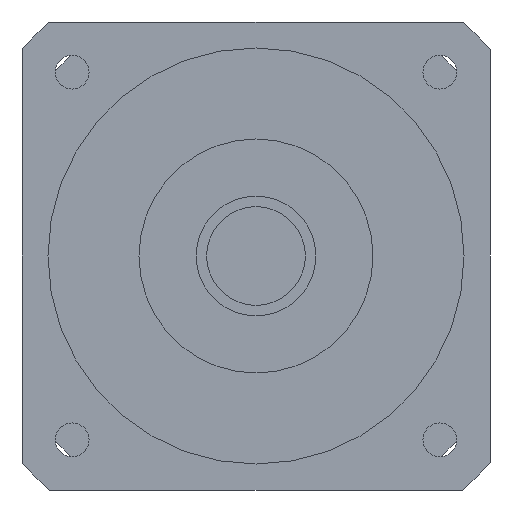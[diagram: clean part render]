
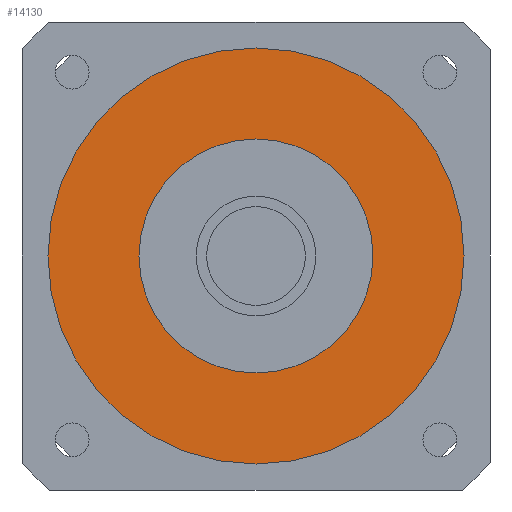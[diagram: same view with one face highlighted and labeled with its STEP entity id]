
A CAD part, left-side view. The second image highlights one B-rep face of the part: STEP entity #14130.
In plain terms, the highlighted planar face has unit normal (-1, 0, 0) as drawn and (0, 0, -1) by its records, which use the part's own axes.
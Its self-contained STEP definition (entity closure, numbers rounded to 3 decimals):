
#13740=CARTESIAN_POINT('',(0.,0.,
-54.));
#13750=DIRECTION('',(0.,0.,1.));
#13760=DIRECTION('',(0.,1.,0.));
#13770=AXIS2_PLACEMENT_3D('',#13740,#13750,#13760);
#13780=PLANE('',#13770);
#13790=CARTESIAN_POINT('',(0.,0.,-54.));
#13800=DIRECTION('',(0.,0.,1.));
#13810=DIRECTION('',(0.,1.,0.));
#13820=AXIS2_PLACEMENT_3D('',#13790,#13800,#13810);
#13830=CIRCLE('',#13820,22.5);
#13840=CARTESIAN_POINT('',(0.,22.5,-54.));
#13850=VERTEX_POINT('',#13840);
#13860=CARTESIAN_POINT('',(0.,-22.5,-54.));
#13870=VERTEX_POINT('',#13860);
#13880=EDGE_CURVE('',#13850,#13870,#13830,.T.);
#13890=ORIENTED_EDGE('',*,*,#13880,.T.);
#13900=EDGE_CURVE('',#13870,#13850,#13830,.T.);
#13910=ORIENTED_EDGE('',*,*,#13900,.T.);
#13920=EDGE_LOOP('',(#13910,#13890));
#13930=FACE_BOUND('',#13920,.T.);
#13940=CARTESIAN_POINT('',(0.,0.,
-54.));
#13950=DIRECTION('',(0.,0.,1.));
#13960=DIRECTION('',(1.,0.,0.));
#13970=AXIS2_PLACEMENT_3D('',#13940,#13950,#13960);
#13980=CIRCLE('',#13970,40.);
#13990=CARTESIAN_POINT('',(40.,0.,-54.));
#14000=VERTEX_POINT('',#13990);
#14010=CARTESIAN_POINT('',(0.,40.,-54.));
#14020=VERTEX_POINT('',#14010);
#14030=EDGE_CURVE('',#14000,#14020,#13980,.T.);
#14040=ORIENTED_EDGE('',*,*,#14030,.F.);
#14050=CARTESIAN_POINT('',(0.,-40.,-54.));
#14060=VERTEX_POINT('',#14050);
#14070=EDGE_CURVE('',#14020,#14060,#13980,.T.);
#14080=ORIENTED_EDGE('',*,*,#14070,.F.);
#14090=EDGE_CURVE('',#14060,#14000,#13980,.T.);
#14100=ORIENTED_EDGE('',*,*,#14090,.F.);
#14110=EDGE_LOOP('',(#14100,#14080,#14040));
#14120=FACE_OUTER_BOUND('',#14110,.T.);
#14130=ADVANCED_FACE('',(#13930,#14120),#13780,.F.);
